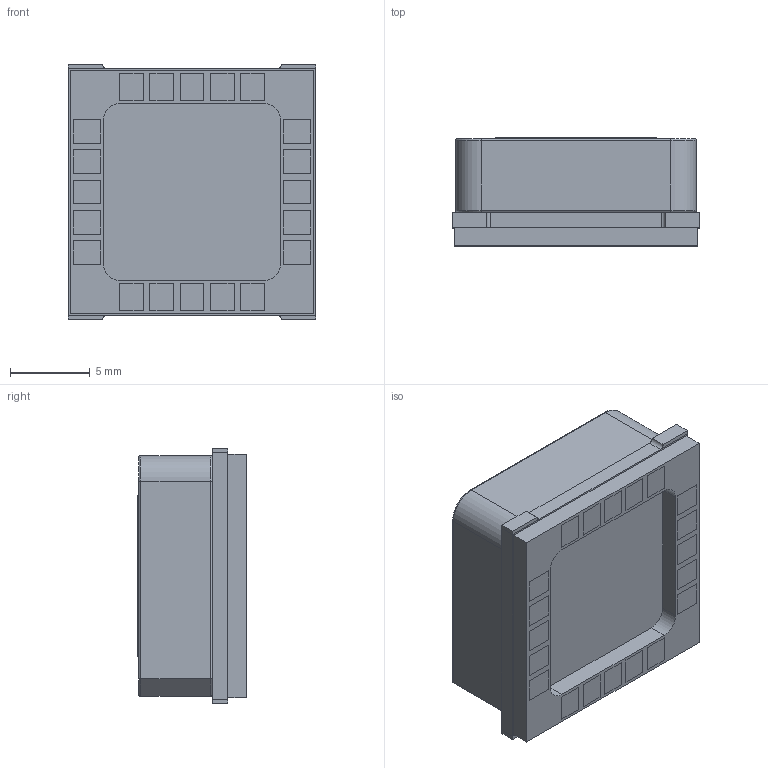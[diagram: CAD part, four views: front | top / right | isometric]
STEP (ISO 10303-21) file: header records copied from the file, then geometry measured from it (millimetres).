
FILE_DESCRIPTION(/* description */ ('STEP AP214'),/* implementation_level */ '2;1');
FILE_NAME(/* name */ 'SAM-M10Q-00B_v1.step',/* time_stamp */ '2025-10-30T23:31:13+01:00',/* author */ (''),/* organization */ (''),/* preprocessor_version */ 'ST-DEVELOPER v20.1',/* originating_system */ 'Autodesk Translation Framework v14.17.0.0',/* authorisation */ '');
FILE_SCHEMA (('AUTOMOTIVE_DESIGN { 1 0 10303 214 3 1 1 }'));
Length unit declared in the file: millimetre
Products named in the file (1): 2025-10-21-12-02-20-196
Bounding box: 15.5 x 6.8 x 16 mm (x, y, z)
Volume: 1412.2 mm3; surface area: 1982.2 mm2
Topology: 29 solids, 29 shells, 310 faces, 674 edges, 444 vertices
Faces by surface type: plane 281, cylinder 23, torus 6
Full cylindrical faces by diameter (mm): 0.7 x2
Entity records: 8342 total; most frequent: CARTESIAN_POINT 1429, ORIENTED_EDGE 1348, DIRECTION 1344, EDGE_CURVE 674, LINE 626, VECTOR 626, VERTEX_POINT 444, AXIS2_PLACEMENT_3D 359
